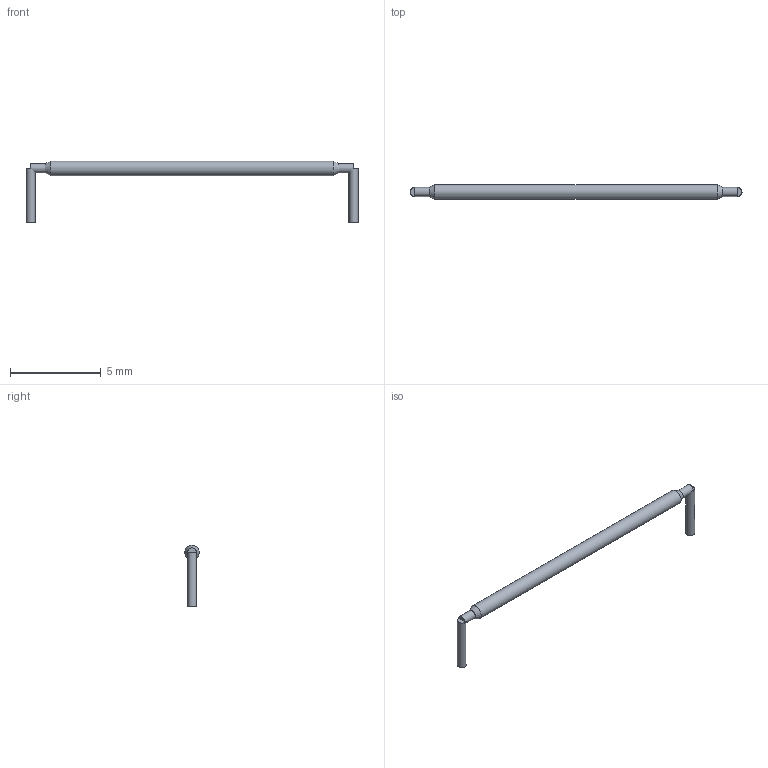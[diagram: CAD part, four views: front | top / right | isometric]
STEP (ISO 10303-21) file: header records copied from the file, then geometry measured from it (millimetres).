
FILE_DESCRIPTION(('FreeCAD Model'),'2;1');
FILE_NAME('Open CASCADE Shape Model','2026-04-07T19:07:43',('FreeCAD'),( 'FreeCAD'),'Open CASCADE STEP processor 7.8','FreeCAD','Unknown');
FILE_SCHEMA(('AUTOMOTIVE_DESIGN { 1 0 10303 214 1 1 1 1 }'));
Length unit declared in the file: millimetre
Products named in the file (1): Open CASCADE STEP translator 7.8 7
Bounding box: 18.28 x 0.8 x 3.4 mm (x, y, z)
Volume: 12.7 mm3; surface area: 79.5 mm2
Topology: 4 solids, 4 shells, 14 faces, 16 edges, 10 vertices
Faces by surface type: plane 8, cylinder 4, cone 2
Full cylindrical faces by diameter (mm): 0.5 x3, 0.8 x1
Entity records: 287 total; most frequent: DIRECTION 56, CARTESIAN_POINT 41, ORIENTED_EDGE 32, AXIS2_PLACEMENT_3D 25, EDGE_CURVE 16, ADVANCED_FACE 14, FACE_BOUND 14, EDGE_LOOP 14
